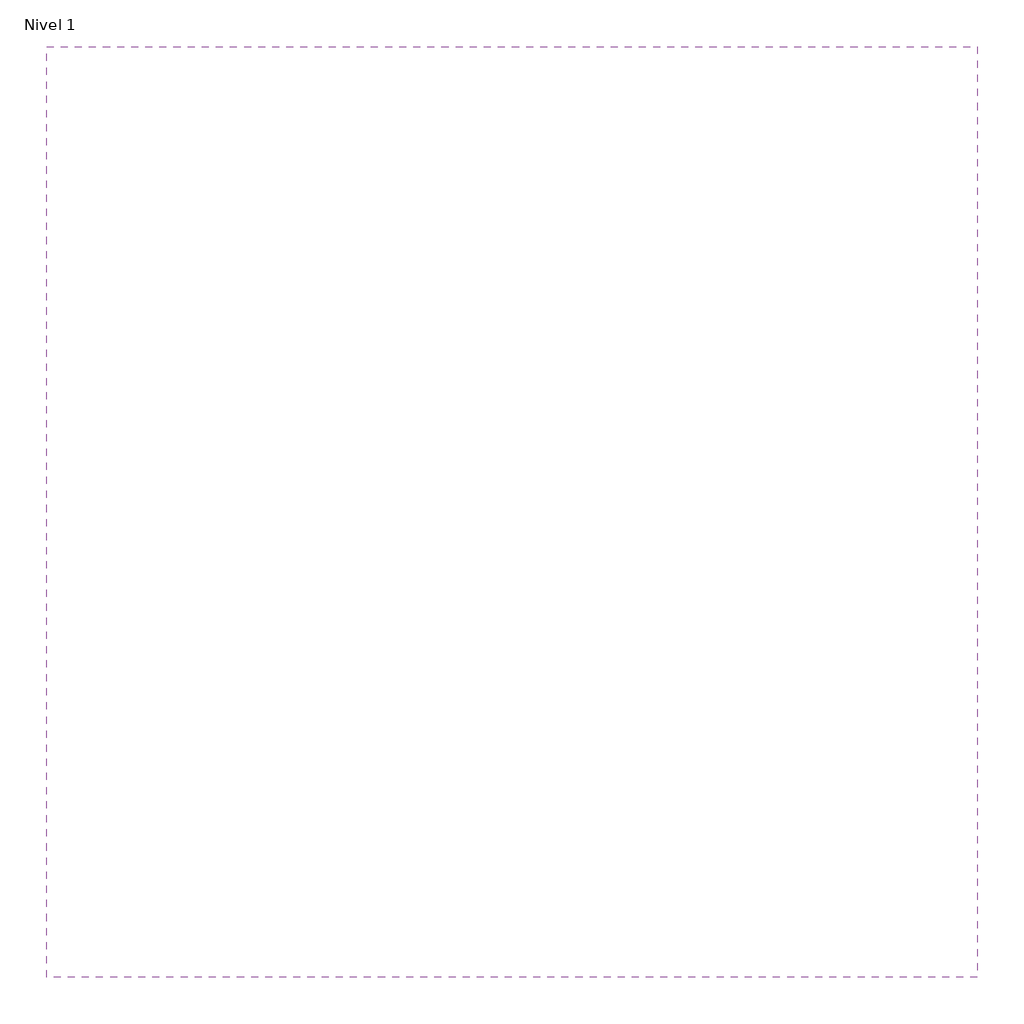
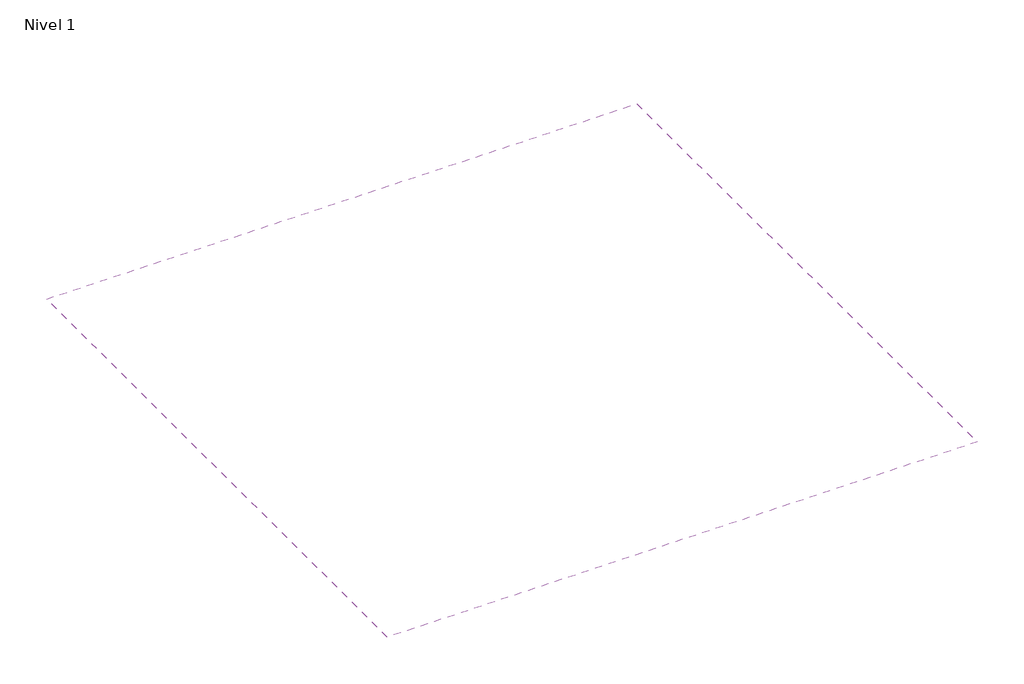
# One storey: 1 covering.
"""IFC4 building model written with IfcOpenShell, lengths in millimetres."""

import ifcopenshell
import ifcopenshell.guid

model = None  # the IFC model being written
_history = None  # IfcOwnerHistory: only IFC2X3 demands one
_inside = {}  # id of a spatial element -> (the spatial element, [elements in it])
_under = {}  # id of a project, library or spatial element -> (it, [spatial elements below it])
_declared = {}  # id of a project -> (the project, [libraries it declares])
_typed = {}  # id of a type object -> (the type object, [elements of that type])
_made_of = {}  # id of a material, layer set ... -> (it, [elements and type objects made of it])


def new_model(schema):
    """Start an empty IFC model of exactly this schema.

    Asked for "IFC4X3", IfcOpenShell would pick the latest addendum, in which some entities
    have other attributes; the version numbers below select the first issue.
    IFC2X3 requires an IfcOwnerHistory on every rooted entity: one is made here for all.
    """
    global model, _history
    if schema == "IFC4X3":
        model = ifcopenshell.file(schema_version=(4, 3, 0, 0))
    else:
        model = ifcopenshell.file(schema=schema)
    _inside.clear()
    _under.clear()
    _declared.clear()
    _typed.clear()
    _made_of.clear()
    _history = None
    if model.schema == "IFC2X3":
        org = make("IfcOrganization", Name="unknown")
        user = make(
            "IfcPersonAndOrganization",
            ThePerson=make("IfcPerson", FamilyName="unknown"),
            TheOrganization=org,
        )
        app = make(
            "IfcApplication",
            ApplicationDeveloper=org,
            Version="unknown",
            ApplicationFullName="unknown",
            ApplicationIdentifier="unknown",
        )
        _history = make(
            "IfcOwnerHistory",
            OwningUser=user,
            OwningApplication=app,
            ChangeAction="ADDED",
            CreationDate=0,
        )
    return model


def make(cls, **values):
    """One entity of the class cls with the attributes given. An attribute that is None is left unset."""
    return model.create_entity(
        cls, **{name: value for name, value in values.items() if value is not None}
    )


def rooted(cls, **values):
    """An entity with a GlobalId (a new one), such as an element, a storey or a relation."""
    return make(cls, GlobalId=ifcopenshell.guid.new(), OwnerHistory=_history, **values)


def si_unit(unit_type, name, prefix=None):
    """IfcSIUnit, for example si_unit("LENGTHUNIT", "METRE", prefix="MILLI")."""
    return make("IfcSIUnit", UnitType=unit_type, Prefix=prefix, Name=name)


def assignment(units):
    """IfcUnitAssignment: the units of a project."""
    return None if units is None else make("IfcUnitAssignment", Units=units)


def point(xyz):
    """IfcCartesianPoint."""
    return None if xyz is None else make("IfcCartesianPoint", Coordinates=xyz)


def direction(xyz):
    """IfcDirection."""
    return None if xyz is None else make("IfcDirection", DirectionRatios=xyz)


def frame(location, z_axis=None, x_axis=None):
    """IfcAxis2Placement3D, a coordinate frame: its origin and axes. An axis left out is left unset."""
    return make(
        "IfcAxis2Placement3D",
        Location=point(location),
        Axis=direction(z_axis),
        RefDirection=direction(x_axis),
    )


def origin():
    """The frame at (0, 0, 0) with its axes left unset."""
    return frame((0.0, 0.0, 0.0))


def place(relative_to, where):
    """IfcLocalPlacement: puts the frame where relative to a parent placement (None: the world)."""
    return make(
        "IfcLocalPlacement", PlacementRelTo=relative_to, RelativePlacement=where
    )


def context(
    kind, dimensions, precision=None, world=None, true_north=None, identifier=None
):
    """IfcGeometricRepresentationContext, for example the 3D "Model" context."""
    return make(
        "IfcGeometricRepresentationContext",
        ContextIdentifier=identifier,
        ContextType=kind,
        CoordinateSpaceDimension=dimensions,
        Precision=precision,
        WorldCoordinateSystem=world,
        TrueNorth=true_north,
    )


def project(units=None, contexts=None):
    """IfcProject with its units and contexts."""
    return rooted(
        "IfcProject",
        Name="project",
        RepresentationContexts=contexts,
        UnitsInContext=assignment(units),
    )


def spatial(cls, under=None, at=None, **own):
    """A site, building, storey or space (cls), placed at a placement, below another one or the project."""
    s = rooted(cls, ObjectPlacement=at, **own)
    if under is not None:
        _under.setdefault(under.id(), (under, []))[1].append(s)
    return s


def polyline(points):
    """IfcPolyline through the points."""
    return make("IfcPolyline", Points=[point(p) for p in points])


def outline(outer, holes=None, kind="AREA"):
    """IfcArbitraryClosedProfileDef: a profile drawn as a closed curve; with holes, ...WithVoids."""
    if holes is None:
        return make("IfcArbitraryClosedProfileDef", ProfileType=kind, OuterCurve=outer)
    return make(
        "IfcArbitraryProfileDefWithVoids",
        ProfileType=kind,
        OuterCurve=outer,
        InnerCurves=holes,
    )


def extrude(swept, where, along, depth):
    """IfcExtrudedAreaSolid: the profile swept, set in the frame where, extruded along a direction by depth."""
    return make(
        "IfcExtrudedAreaSolid",
        SweptArea=swept,
        Position=where,
        ExtrudedDirection=direction(along),
        Depth=depth,
    )


def shape(context_of_items, identifier, shape_type, items):
    """IfcShapeRepresentation: the items that make up one representation, for example the "Body"."""
    return make(
        "IfcShapeRepresentation",
        ContextOfItems=context_of_items,
        RepresentationIdentifier=identifier,
        RepresentationType=shape_type,
        Items=items,
    )


def made_of(thing, what):
    """Note that an element or type object is made of a material, layer set ...; save() writes the relation."""
    if what is not None:
        _made_of.setdefault(what.id(), (what, []))[1].append(thing)
    return thing


def element(
    cls,
    number,
    at=None,
    inside=None,
    cuts=None,
    type_object=None,
    material=None,
    context=None,
    identifier="Body",
    shape_type=None,
    held_by="IfcProductDefinitionShape",
    body=None,
    shapes=None,
    **own,
):
    """One element of the class cls, such as IfcWall. Its Tag is "e" and its number.

    at: its placement. inside: the storey or other place that contains it. cuts: it is an
    opening in that element (IfcRelVoidsElement). A single representation is given by context,
    identifier, shape_type and body (its items); several are given by shapes. held_by: the class
    of the entity that holds the representations. save() writes the other relations.
    """
    e = rooted(cls, Tag="e%d" % number, ObjectPlacement=at, **own)
    if body is not None:
        shapes = [shape(context, identifier, shape_type, body)]
    if shapes is not None:
        e.Representation = make(held_by, Representations=shapes)
    if inside is not None:
        _inside.setdefault(inside.id(), (inside, []))[1].append(e)
    if cuts is not None:
        rooted(
            "IfcRelVoidsElement", RelatingBuildingElement=cuts, RelatedOpeningElement=e
        )
    if type_object is not None:
        _typed.setdefault(type_object.id(), (type_object, []))[1].append(e)
    return made_of(e, material)


def aggregate(whole, parts):
    """IfcRelAggregates: a whole, such as a stair, and the parts it consists of."""
    return rooted("IfcRelAggregates", RelatingObject=whole, RelatedObjects=parts)


def save(model, path):
    """Write the relations noted so far, then the file.

    IfcRelAggregates (storeys below a building ...), IfcRelContainedInSpatialStructure (elements
    in a storey), IfcRelDefinesByType, IfcRelAssociatesMaterial and IfcRelDeclares: one each for
    every whole, place, type object, material and project.
    """
    for whole, parts in _under.values():
        aggregate(whole, parts)
    for where, things in _inside.values():
        rooted(
            "IfcRelContainedInSpatialStructure",
            RelatedElements=things,
            RelatingStructure=where,
        )
    for kind, things in _typed.values():
        rooted("IfcRelDefinesByType", RelatedObjects=things, RelatingType=kind)
    for what, things in _made_of.values():
        rooted("IfcRelAssociatesMaterial", RelatedObjects=things, RelatingMaterial=what)
    for by, libraries in _declared.values():
        rooted("IfcRelDeclares", RelatingContext=by, RelatedDefinitions=libraries)
    model.write(path)


model = new_model("IFC4")

# Units and contexts
model_context = context("Model", 3, world=origin())
ifc_project = project(units=[si_unit("LENGTHUNIT", "METRE", prefix="MILLI")], contexts=[model_context])

# Site, building, storey
site = spatial("IfcSite", under=ifc_project)
building = spatial("IfcBuilding", under=site)
storey = spatial("IfcBuildingStorey", under=building, Name="Nivel 1", Elevation=0.0)

# Covering
placement = place(None, origin())
element("IfcCovering", 1, ObjectType="Plancha poliuretano + Yeso", at=placement, inside=storey, context=model_context, shape_type="SweptSolid", body=[
    extrude(outline(polyline([(-2177.4784364, 3679.8615469), (-3177.4784364, 3679.8615469), (-3177.4784364, 4679.8615469), (-2177.4784364, 4679.8615469), (-2177.4784364, 3679.8615469)])), frame((0.0, 0.0, 2600.0), z_axis=(0.0, 0.0, 1.0), x_axis=(1.0, 0.0, 0.0)), (0.0, 0.0, 1.0), 102.5),
])

save(model, "model.ifc")
